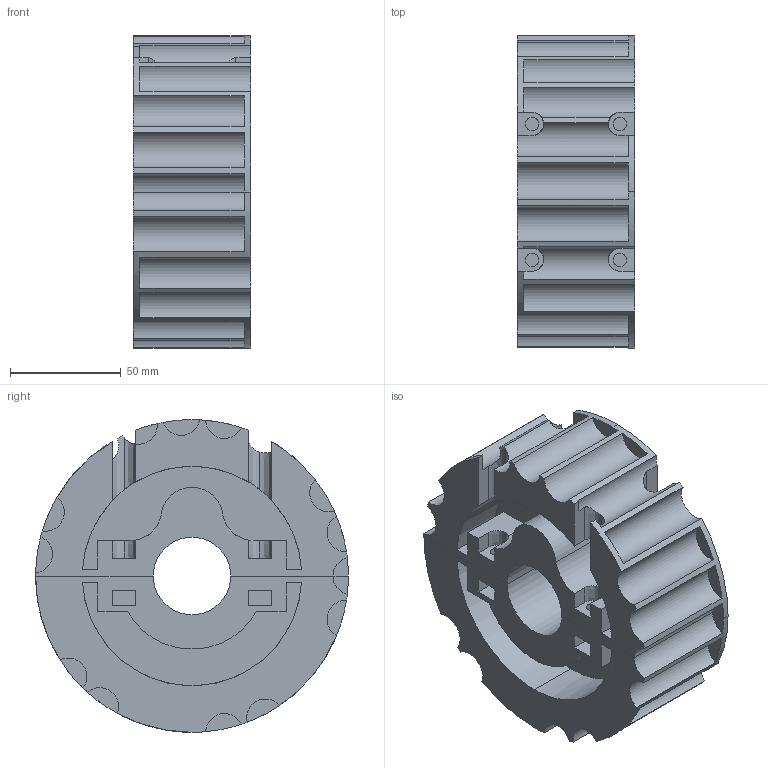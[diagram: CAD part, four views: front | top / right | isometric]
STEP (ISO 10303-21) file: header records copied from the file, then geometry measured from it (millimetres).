
FILE_DESCRIPTION(('CATIA V5 STEP Exchange','CAx-IF Rec.Pracs.--- Model Styling and Organization---1.4--- 2014-01-23'),'2;1');
FILE_NAME('C:\Users\Admin\Desktop\BUTUN-PARCALAR\alhan\312\314KI2323.stp','2022-03-23T20:01:33+00:00',('none'),('none'),'CATIA Version 5-6 Release 2017','CATIA V5 STEP AP214','none');
FILE_SCHEMA(('AUTOMOTIVE_DESIGN { 1 0 10303 214 1 1 1 1 }'));
Length unit declared in the file: millimetre
Products named in the file (1): 314KI2323
Bounding box: 53 x 141 x 141 mm (x, y, z)
Volume: 499213.1 mm3; surface area: 106021.2 mm2
Topology: 2 solids, 2 shells, 184 faces, 530 edges, 356 vertices
Faces by surface type: plane 103, cylinder 65, extrusion 16
Entity records: 5698 total; most frequent: CARTESIAN_POINT 1311, ORIENTED_EDGE 1060, DIRECTION 626, EDGE_CURVE 530, VERTEX_POINT 356, VECTOR 316, LINE 300, AXIS2_PLACEMENT_3D 253
